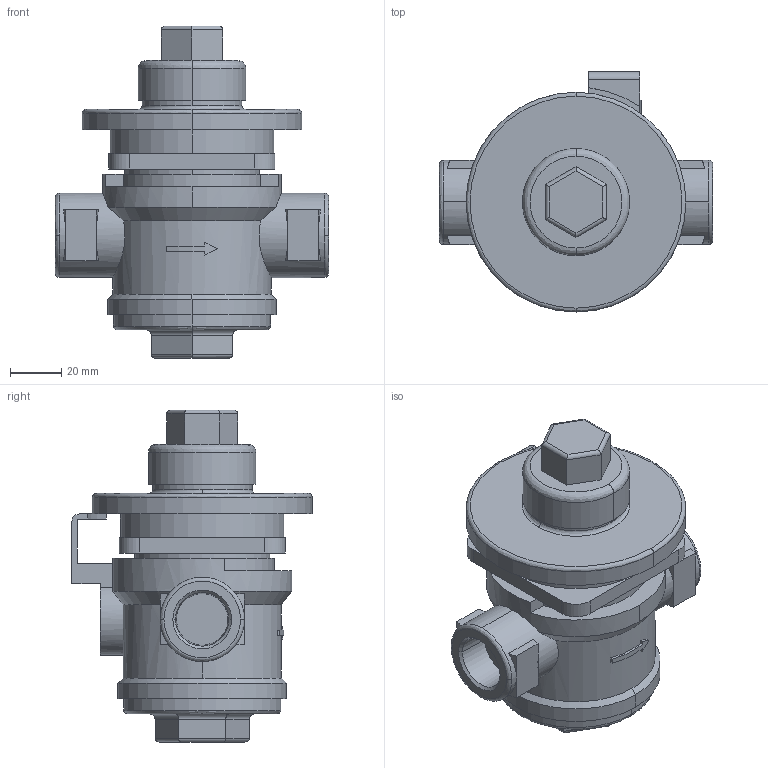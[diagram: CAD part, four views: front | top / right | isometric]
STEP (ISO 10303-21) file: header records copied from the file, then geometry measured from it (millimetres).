
FILE_DESCRIPTION( (''), '2;1');
FILE_NAME ('PC1027.12188.TSD-7 15A_26959.stp','2025-07-31T15:44:30',(''),(''),'spGate 20.6.3 (****-****-****-****)','','');
FILE_SCHEMA (('AUTOMOTIVE_DESIGN'));
Length unit declared in the file: millimetre
Products named in the file (2): Assembly; TSD-7 15A
Assembly tree (1 placements, depth 2):
  Assembly
    TSD-7 15A
Bounding box: 107 x 94 x 130 mm (x, y, z)
Volume: 387992 mm3; surface area: 48981.4 mm2
Topology: 1 solids, 1 shells, 154 faces, 380 edges, 245 vertices
Faces by surface type: plane 79, cylinder 50, bspline 25
Entity records: 8181 total; most frequent: CARTESIAN_POINT 1675, ORIENTED_EDGE 760, DIRECTION 645, COLOUR_RGB 535, PRESENTATION_STYLE_ASSIGNMENT 535, STYLED_ITEM 535, EDGE_CURVE 380, DRAUGHTING_PRE_DEFINED_CURVE_FONT 380
